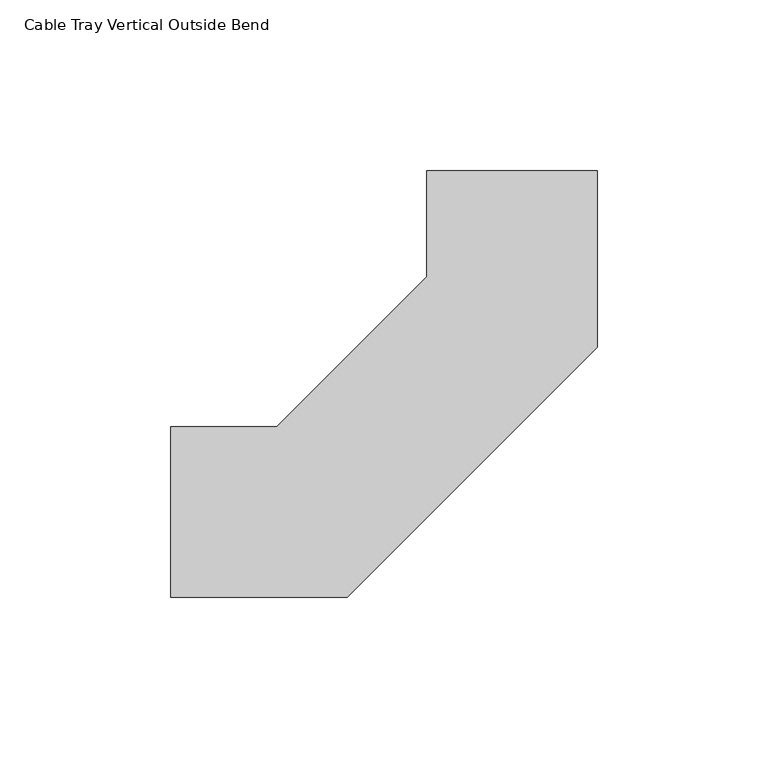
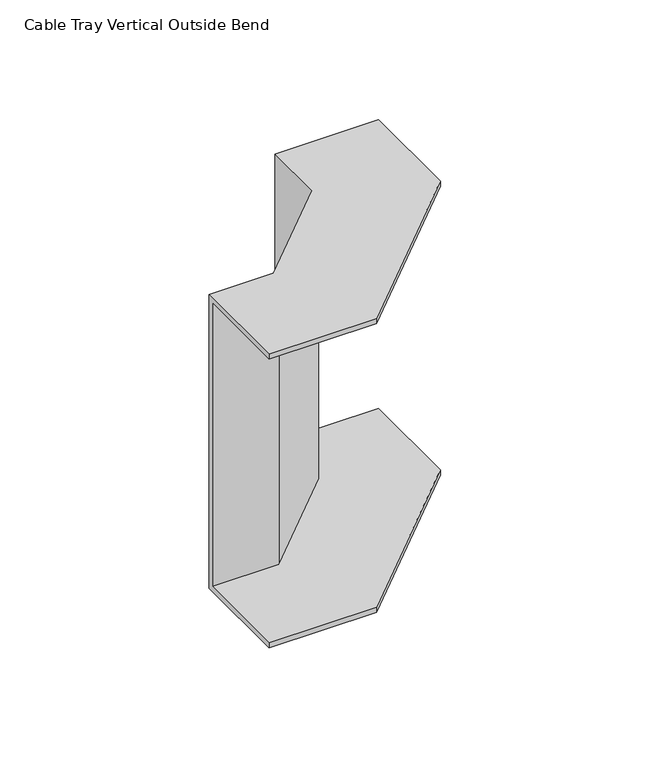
"""IFC4 building model written with IfcOpenShell, lengths in millimetres: cable carrier fitting geometry, Cable Tray Vertical Outside Bend : ELEC_ELV_CT_N2402."""

from ifc_helpers import new_model, si_unit, origin, place, context, project, spatial, faceted_brep, source, transform, mapped, element, save


def cable_tray_vertical_outside_bend_da7dccf6(model_context):
    return source(origin(), model_context, "Body", "Brep", [
        faceted_brep([(-100.0, -25.0, 75.0), (-100.0, 25.0, 75.0), (-100.0, 25.0, -75.0), (-100.0, -25.0, -75.0), (-100.0, -25.0, -72.46), (-100.0, 22.46, -72.46), (-100.0, 22.46, 72.46), (-100.0, -25.0, 72.46), (25.0, 100.0, 75.0), (25.0, 100.0, 72.46), (-22.46, 100.0, 72.46), (-22.46, 100.0, -72.46), (25.0, 100.0, -72.46), (25.0, 100.0, -75.0), (-25.0, 100.0, -75.0), (-25.0, 100.0, 75.0), (-48.2233047, -25.0, 75.0), (25.0, 48.2233047, 75.0), (-25.0, 68.9339828, 75.0), (-68.9339828, 25.0, 75.0), (-68.9339828, 25.0, -75.0), (-25.0, 68.9339828, -75.0), (25.0, 48.2233047, -75.0), (-48.2233047, -25.0, -75.0), (-48.2233047, -25.0, -72.46), (25.0, 48.2233047, -72.46), (-22.46, 67.8818804, -72.46), (-67.8818804, 22.46, -72.46), (-67.8818804, 22.46, 72.46), (-22.46, 67.8818804, 72.46), (25.0, 48.2233047, 72.46), (-48.2233047, -25.0, 72.46)], [[[0, 1, 2, 3, 4, 5, 6, 7]], [[8, 9, 10, 11, 12, 13, 14, 15]], [[1, 0, 16, 17, 8, 15, 18, 19]], [[2, 1, 19, 20]], [[3, 2, 20, 21, 14, 13, 22, 23]], [[4, 3, 23, 24]], [[5, 4, 24, 25, 12, 11, 26, 27]], [[6, 5, 27, 28]], [[7, 6, 28, 29, 10, 9, 30, 31]], [[0, 7, 31, 16]], [[20, 19, 18, 21]], [[24, 23, 22, 25]], [[28, 27, 26, 29]], [[16, 31, 30, 17]], [[21, 18, 15, 14]], [[25, 22, 13, 12]], [[29, 26, 11, 10]], [[17, 30, 9, 8]]]),
    ])


if __name__ == "__main__":
    model = new_model("IFC4")
    model_context = context("Model", 3, world=origin())
    ifc_project = project(units=[si_unit("LENGTHUNIT", "METRE", prefix="MILLI")], contexts=[model_context])
    site = spatial("IfcSite", under=ifc_project)
    building = spatial("IfcBuilding", under=site)
    placement = place(None, origin())
    cable_tray_vertical_outside_bend_shape = cable_tray_vertical_outside_bend_da7dccf6(model_context)
    element("IfcCableCarrierFitting", 1, ObjectType="Cable Tray Vertical Outside Bend : ELEC_ELV_CT_N2402", at=placement, inside=building, context=model_context, shape_type="MappedRepresentation", body=[
        mapped(cable_tray_vertical_outside_bend_shape, transform((0.0, 0.0, 0.0), x_axis=(1.0, 0.0, 0.0), y_axis=(0.0, 1.0, 0.0), z_axis=(0.0, 0.0, 1.0))),
    ])
    save(model, "model.ifc")
